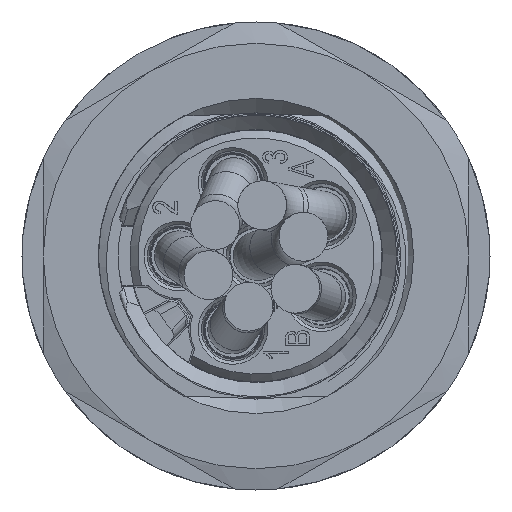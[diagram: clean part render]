
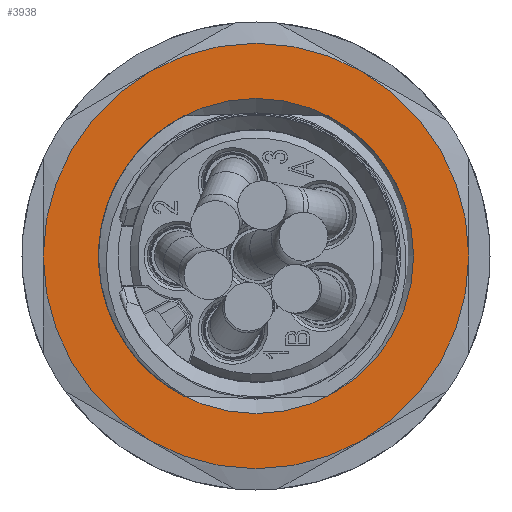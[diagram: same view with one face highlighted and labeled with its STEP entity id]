
A CAD part, left-side view. The second image highlights one B-rep face of the part: STEP entity #3938.
In plain terms, the highlighted planar face has unit normal (-1, 0, 0).
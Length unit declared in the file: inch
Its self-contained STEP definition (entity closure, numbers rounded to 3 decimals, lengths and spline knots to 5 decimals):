
#1622 = ORIENTED_EDGE ( 'NONE', *, *, #4858, .T. ) ;
#3938 = ADVANCED_FACE ( 'NONE', ( #14176, #97357 ), #71642, .T. ) ;
#4858 = EDGE_CURVE ( 'NONE', #118628, #90716, #93817, .T. ) ;
#11534 = VERTEX_POINT ( 'NONE', #57410 ) ;
#13852 = DIRECTION ( 'NONE',  ( 0., 0.5, 0.866 ) ) ;
#14176 = FACE_OUTER_BOUND ( 'NONE', #91152, .T. ) ;
#14878 = DIRECTION ( 'NONE',  ( -1., 0., 0. ) ) ;
#16906 = CARTESIAN_POINT ( 'NONE',  ( 18.51576, 0.87367, 0.00001 ) ) ;
#17592 = CARTESIAN_POINT ( 'NONE',  ( 18.51576, 0.87367, 0.00001 ) ) ;
#19095 = CIRCLE ( 'NONE', #105227, 0.5315 ) ;
#21201 = CARTESIAN_POINT ( 'NONE',  ( 18.51576, 0.87367, 0.00001 ) ) ;
#23310 = AXIS2_PLACEMENT_3D ( 'NONE', #113626, #105044, #29895 ) ;
#23389 = ORIENTED_EDGE ( 'NONE', *, *, #117594, .F. ) ;
#23845 = EDGE_CURVE ( 'NONE', #48602, #43954, #93412, .T. ) ;
#26517 = EDGE_CURVE ( 'NONE', #90716, #48602, #109374, .T. ) ;
#27395 = DIRECTION ( 'NONE',  ( -1., 0., 0. ) ) ;
#29560 = EDGE_CURVE ( 'NONE', #66628, #78829, #120970, .T. ) ;
#29895 = DIRECTION ( 'NONE',  ( 0., 0.5, 0.866 ) ) ;
#30803 = CARTESIAN_POINT ( 'NONE',  ( 18.51576, 0.87367, 0.00001 ) ) ;
#31354 = EDGE_CURVE ( 'NONE', #43954, #66628, #19095, .T. ) ;
#31942 = CARTESIAN_POINT ( 'NONE',  ( 18.51576, 1.40516, 0.00001 ) ) ;
#33171 = CARTESIAN_POINT ( 'NONE',  ( 18.51576, 1.21462, -0.19685 ) ) ;
#34689 = CARTESIAN_POINT ( 'NONE',  ( 18.51576, 1.13941, 0.46029 ) ) ;
#34879 = AXIS2_PLACEMENT_3D ( 'NONE', #77474, #59122, #13852 ) ;
#36564 = DIRECTION ( 'NONE',  ( 0., 0.5, 0.866 ) ) ;
#38891 = DIRECTION ( 'NONE',  ( 0., 0.5, 0.866 ) ) ;
#41128 = EDGE_CURVE ( 'NONE', #78829, #118628, #100084, .T. ) ;
#41880 = AXIS2_PLACEMENT_3D ( 'NONE', #21201, #14878, #71126 ) ;
#43954 = VERTEX_POINT ( 'NONE', #86537 ) ;
#47811 = CIRCLE ( 'NONE', #41880, 0.3937 ) ;
#48602 = VERTEX_POINT ( 'NONE', #31942 ) ;
#48879 = AXIS2_PLACEMENT_3D ( 'NONE', #33171, #70431, #108305 ) ;
#49108 = DIRECTION ( 'NONE',  ( -1., 0., 0. ) ) ;
#50868 = AXIS2_PLACEMENT_3D ( 'NONE', #76746, #114051, #86518 ) ;
#54393 = CARTESIAN_POINT ( 'NONE',  ( 18.51576, 0.60792, -0.46028 ) ) ;
#54663 = AXIS2_PLACEMENT_3D ( 'NONE', #16906, #87128, #38891 ) ;
#57410 = CARTESIAN_POINT ( 'NONE',  ( 18.51576, 1.07052, 0.34096 ) ) ;
#59122 = DIRECTION ( 'NONE',  ( -1., 0., 0. ) ) ;
#66628 = VERTEX_POINT ( 'NONE', #54393 ) ;
#68061 = DIRECTION ( 'NONE',  ( 0., 0.5, 0.866 ) ) ;
#69355 = ORIENTED_EDGE ( 'NONE', *, *, #26517, .T. ) ;
#70431 = DIRECTION ( 'NONE',  ( -1., 0., 0. ) ) ;
#71126 = DIRECTION ( 'NONE',  ( 0., 0.5, 0.866 ) ) ;
#71642 = PLANE ( 'NONE',  #48879 ) ;
#74656 = AXIS2_PLACEMENT_3D ( 'NONE', #17592, #27395, #36564 ) ;
#76746 = CARTESIAN_POINT ( 'NONE',  ( 18.51576, 0.87367, 0.00001 ) ) ;
#77474 = CARTESIAN_POINT ( 'NONE',  ( 18.51576, 0.87367, 0.00001 ) ) ;
#78829 = VERTEX_POINT ( 'NONE', #103014 ) ;
#86518 = DIRECTION ( 'NONE',  ( 0., 0.5, 0.866 ) ) ;
#86537 = CARTESIAN_POINT ( 'NONE',  ( 18.51576, 1.13941, -0.46028 ) ) ;
#87128 = DIRECTION ( 'NONE',  ( -1., 0., 0. ) ) ;
#90716 = VERTEX_POINT ( 'NONE', #34689 ) ;
#91152 = EDGE_LOOP ( 'NONE', ( #69355, #109268, #107335, #111247, #93353, #1622 ) ) ;
#93353 = ORIENTED_EDGE ( 'NONE', *, *, #41128, .T. ) ;
#93412 = CIRCLE ( 'NONE', #34879, 0.5315 ) ;
#93817 = CIRCLE ( 'NONE', #50868, 0.5315 ) ;
#97002 = EDGE_LOOP ( 'NONE', ( #23389 ) ) ;
#97357 = FACE_BOUND ( 'NONE', #97002, .T. ) ;
#100084 = CIRCLE ( 'NONE', #74656, 0.5315 ) ;
#103014 = CARTESIAN_POINT ( 'NONE',  ( 18.51576, 0.34217, 0.00001 ) ) ;
#105044 = DIRECTION ( 'NONE',  ( -1., 0., 0. ) ) ;
#105227 = AXIS2_PLACEMENT_3D ( 'NONE', #30803, #49108, #68061 ) ;
#107335 = ORIENTED_EDGE ( 'NONE', *, *, #31354, .T. ) ;
#108305 = DIRECTION ( 'NONE',  ( 0., 0.866, -0.5 ) ) ;
#109268 = ORIENTED_EDGE ( 'NONE', *, *, #23845, .T. ) ;
#109374 = CIRCLE ( 'NONE', #54663, 0.5315 ) ;
#111247 = ORIENTED_EDGE ( 'NONE', *, *, #29560, .T. ) ;
#113626 = CARTESIAN_POINT ( 'NONE',  ( 18.51576, 0.87367, 0.00001 ) ) ;
#114051 = DIRECTION ( 'NONE',  ( -1., 0., 0. ) ) ;
#117333 = CARTESIAN_POINT ( 'NONE',  ( 18.51576, 0.60792, 0.46029 ) ) ;
#117594 = EDGE_CURVE ( 'NONE', #11534, #11534, #47811, .T. ) ;
#118628 = VERTEX_POINT ( 'NONE', #117333 ) ;
#120970 = CIRCLE ( 'NONE', #23310, 0.5315 ) ;
